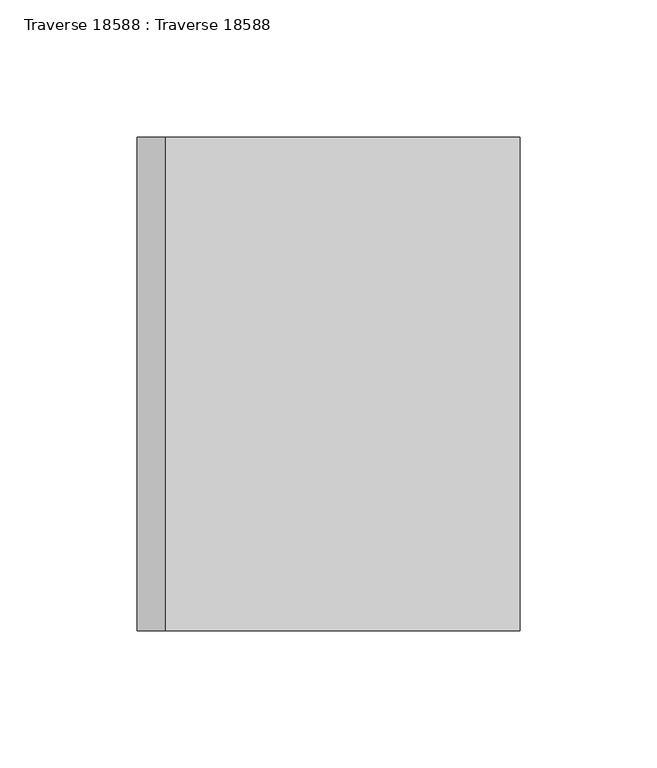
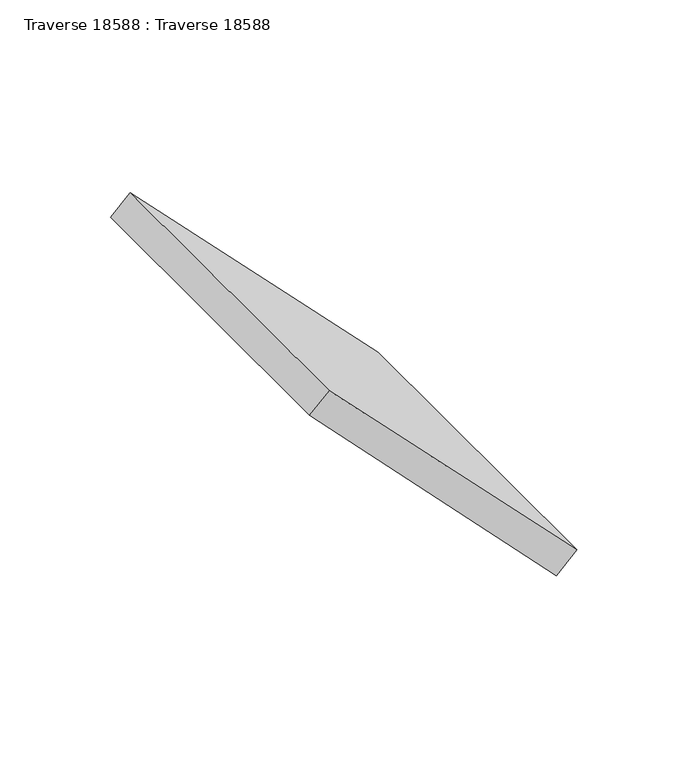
"""IFC4 building model written with IfcOpenShell, lengths in millimetres: beam geometry, Traverse 18588 : Traverse 18588."""

from ifc_helpers import new_model, si_unit, frame, origin, place, context, project, spatial, polyline, outline, extrude, source, transform, mapped, element, save


def traverse_18588_traverse_18588_b9e0aae4(model_context):
    return source(origin(), model_context, "Body", "SweptSolid", [
        extrude(outline(polyline([(6966.6805983, 15375.010294), (7099.8571524, 15245.6549316), (7089.8656431, 15235.3683288), (6956.2807668, 15364.3033093), (6966.6805983, 15375.010294)])), frame((0.0, -8690.0, 0.0), z_axis=(0.0, 1.0, 0.0), x_axis=(0.0, 0.0, 1.0)), (0.0, 0.0, 1.0), 180.0),
    ])


if __name__ == "__main__":
    model = new_model("IFC4")
    model_context = context("Model", 3, world=origin())
    ifc_project = project(units=[si_unit("LENGTHUNIT", "METRE", prefix="MILLI")], contexts=[model_context])
    site = spatial("IfcSite", under=ifc_project)
    building = spatial("IfcBuilding", under=site)
    placement = place(None, origin())
    traverse_18588_traverse_18588_shape = traverse_18588_traverse_18588_b9e0aae4(model_context)
    element("IfcBeam", 1, ObjectType="Traverse 18588 : Traverse 18588", at=placement, inside=building, context=model_context, shape_type="MappedRepresentation", body=[
        mapped(traverse_18588_traverse_18588_shape, transform((0.0, 0.0, 0.0), x_axis=(1.0, 0.0, 0.0), y_axis=(0.0, 1.0, 0.0), z_axis=(0.0, 0.0, 1.0))),
    ])
    save(model, "model.ifc")
